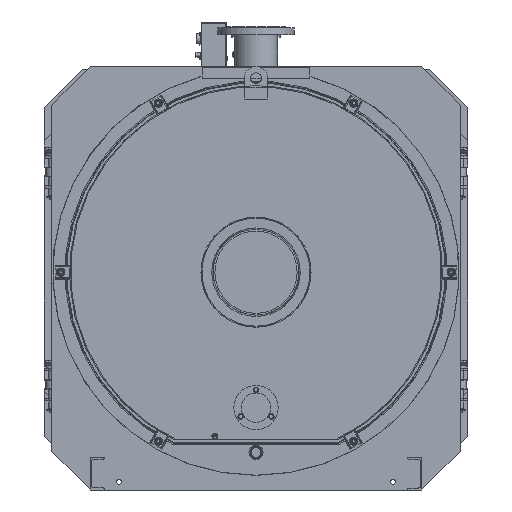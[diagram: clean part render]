
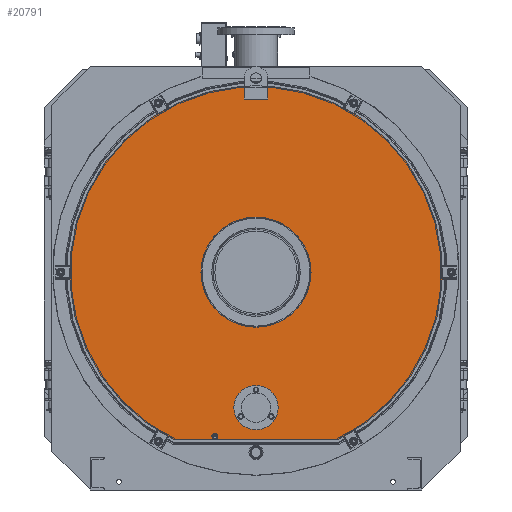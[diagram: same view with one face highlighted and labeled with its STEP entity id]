
A CAD part, left-side view. The second image highlights one B-rep face of the part: STEP entity #20791.
In plain terms, the highlighted planar face has unit normal (-1, 0, 0).
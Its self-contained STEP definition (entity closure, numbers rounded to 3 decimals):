
#20791=ADVANCED_FACE('',(#58680,#58682,#58684),#58686,.T.);
#58680=FACE_BOUND('',#58681,.T.);
#58681=EDGE_LOOP('',(#80406,#80407,#80408,#80409,#80410,#80411,#80412,#80413,#80414,
#80415));
#58682=FACE_BOUND('',#58683,.T.);
#58683=EDGE_LOOP('',(#80416));
#58684=FACE_BOUND('',#58685,.T.);
#58685=EDGE_LOOP('',(#80417));
#58686=PLANE('',#58687);
#58687=AXIS2_PLACEMENT_3D('',#58688,#58689,#58690);
#58688=CARTESIAN_POINT('',(-2719.,0.,0.));
#58689=DIRECTION('',(-1.,0.,0.));
#58690=DIRECTION('',(0.,-1.,0.));
#80406=ORIENTED_EDGE('',*,*,#90615,.F.);
#80407=ORIENTED_EDGE('',*,*,#90616,.F.);
#80408=ORIENTED_EDGE('',*,*,#90617,.F.);
#80409=ORIENTED_EDGE('',*,*,#89822,.T.);
#80410=ORIENTED_EDGE('',*,*,#90614,.T.);
#80411=ORIENTED_EDGE('',*,*,#90618,.T.);
#80412=ORIENTED_EDGE('',*,*,#90619,.T.);
#80413=ORIENTED_EDGE('',*,*,#90620,.T.);
#80414=ORIENTED_EDGE('',*,*,#90621,.T.);
#80415=ORIENTED_EDGE('',*,*,#89824,.T.);
#80416=ORIENTED_EDGE('',*,*,#90622,.T.);
#80417=ORIENTED_EDGE('',*,*,#90623,.F.);
#89822=EDGE_CURVE('',#100869,#100867,#100870,.T.);
#89824=EDGE_CURVE('',#100873,#100871,#100874,.T.);
#90614=EDGE_CURVE('',#100867,#102090,#102092,.T.);
#90615=EDGE_CURVE('',#102093,#100871,#102094,.T.);
#90616=EDGE_CURVE('',#102095,#102093,#102096,.T.);
#90617=EDGE_CURVE('',#100869,#102095,#102097,.T.);
#90618=EDGE_CURVE('',#102090,#102098,#102099,.F.);
#90619=EDGE_CURVE('',#102098,#102100,#102101,.F.);
#90620=EDGE_CURVE('',#102100,#102102,#102103,.F.);
#90621=EDGE_CURVE('',#102102,#100873,#102104,.T.);
#90622=EDGE_CURVE('',#102105,#102105,#102106,.F.);
#90623=EDGE_CURVE('',#102107,#102107,#102108,.T.);
#100867=VERTEX_POINT('',#141433);
#100869=VERTEX_POINT('',#141437);
#100870=CIRCLE('',#141438,680.);
#100871=VERTEX_POINT('',#141442);
#100873=VERTEX_POINT('',#141447);
#100874=CIRCLE('',#141448,680.);
#102090=VERTEX_POINT('',#144943);
#102092=LINE('',#144947,#144948);
#102093=VERTEX_POINT('',#144950);
#102094=LINE('',#144951,#144952);
#102095=VERTEX_POINT('',#144954);
#102096=LINE('',#144955,#144956);
#102097=LINE('',#144958,#144959);
#102098=VERTEX_POINT('',#144961);
#102099=LINE('',#144962,#144963);
#102100=VERTEX_POINT('',#144965);
#102101=CIRCLE('',#144966,11.);
#102102=VERTEX_POINT('',#144970);
#102103=LINE('',#144971,#144972);
#102104=LINE('',#144974,#144975);
#102105=VERTEX_POINT('',#144977);
#102106=CIRCLE('',#144978,201.);
#102107=VERTEX_POINT('',#144982);
#102108=CIRCLE('',#144983,81.);
#141433=CARTESIAN_POINT('',(-2719.,301.512,-609.5));
#141437=CARTESIAN_POINT('',(-2719.,43.,678.639));
#141438=AXIS2_PLACEMENT_3D('',#141439,#141440,#141441);
#141439=CARTESIAN_POINT('',(-2719.,0.,0.));
#141440=DIRECTION('',(-1.,0.,0.));
#141441=DIRECTION('',(0.,0.063,0.998));
#141442=CARTESIAN_POINT('',(-2719.,-43.,678.639));
#141447=CARTESIAN_POINT('',(-2719.,-301.512,-609.5));
#141448=AXIS2_PLACEMENT_3D('',#141449,#141450,#141451);
#141449=CARTESIAN_POINT('',(-2719.,0.,0.));
#141450=DIRECTION('',(-1.,0.,0.));
#141451=DIRECTION('',(0.,-0.443,-0.896));
#144943=CARTESIAN_POINT('',(-2719.,154.583,-609.5));
#144947=CARTESIAN_POINT('',(-2719.,301.512,-609.5));
#144948=VECTOR('',#144949,1.);
#144949=DIRECTION('',(0.,-1.,0.));
#144950=CARTESIAN_POINT('',(-2719.,-43.,632.));
#144951=CARTESIAN_POINT('',(-2719.,-43.,632.));
#144952=VECTOR('',#144953,1.);
#144953=DIRECTION('',(0.,0.,1.));
#144954=CARTESIAN_POINT('',(-2719.,43.,632.));
#144955=CARTESIAN_POINT('',(-2719.,43.,632.));
#144956=VECTOR('',#144957,1.);
#144957=DIRECTION('',(0.,-1.,0.));
#144958=CARTESIAN_POINT('',(-2719.,43.,678.639));
#144959=VECTOR('',#144960,1.);
#144960=DIRECTION('',(0.,0.,-1.));
#144961=CARTESIAN_POINT('',(-2719.,154.583,-608.5));
#144962=CARTESIAN_POINT('',(-2719.,154.583,-608.5));
#144963=VECTOR('',#144964,1.);
#144964=DIRECTION('',(0.,0.,-1.));
#144965=CARTESIAN_POINT('',(-2719.,145.417,-608.5));
#144966=AXIS2_PLACEMENT_3D('',#144967,#144968,#144969);
#144967=CARTESIAN_POINT('',(-2719.,150.,-598.5));
#144968=DIRECTION('',(-1.,0.,0.));
#144969=DIRECTION('',(0.,-0.417,-0.909));
#144970=CARTESIAN_POINT('',(-2719.,145.417,-609.5));
#144971=CARTESIAN_POINT('',(-2719.,145.417,-609.5));
#144972=VECTOR('',#144973,1.);
#144973=DIRECTION('',(0.,0.,1.));
#144974=CARTESIAN_POINT('',(-2719.,145.417,-609.5));
#144975=VECTOR('',#144976,1.);
#144976=DIRECTION('',(0.,-1.,0.));
#144977=CARTESIAN_POINT('',(-2719.,-201.,0.));
#144978=AXIS2_PLACEMENT_3D('',#144979,#144980,#144981);
#144979=CARTESIAN_POINT('',(-2719.,0.,0.));
#144980=DIRECTION('',(-1.,0.,0.));
#144981=DIRECTION('',(0.,-1.,0.));
#144982=CARTESIAN_POINT('',(-2719.,-81.,-494.5));
#144983=AXIS2_PLACEMENT_3D('',#144984,#144985,#144986);
#144984=CARTESIAN_POINT('',(-2719.,0.,-494.5));
#144985=DIRECTION('',(-1.,0.,0.));
#144986=DIRECTION('',(0.,-1.,0.));
